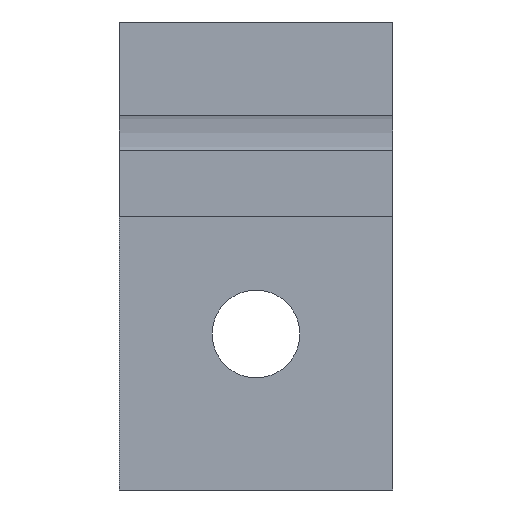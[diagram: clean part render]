
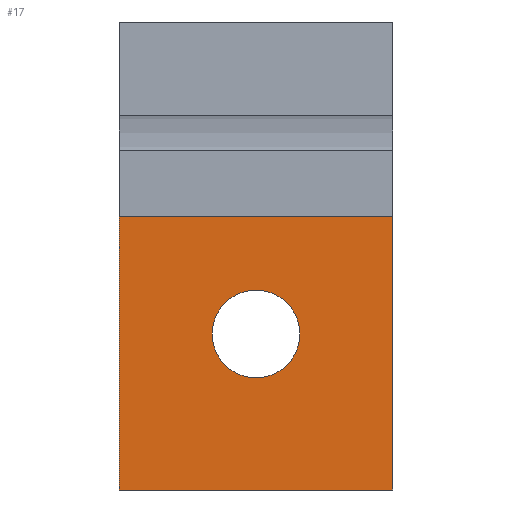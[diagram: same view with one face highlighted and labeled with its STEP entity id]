
A CAD part, left-side view. The second image highlights one B-rep face of the part: STEP entity #17.
In plain terms, the highlighted planar face has unit normal (-1, 0, 0).
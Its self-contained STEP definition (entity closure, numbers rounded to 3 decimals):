
#17 = ADVANCED_FACE('',(#18,#137),#32,.F.);
#18 = FACE_BOUND('',#19,.F.);
#19 = EDGE_LOOP('',(#20,#55,#83,#111));
#20 = ORIENTED_EDGE('',*,*,#21,.F.);
#21 = EDGE_CURVE('',#22,#24,#26,.T.);
#22 = VERTEX_POINT('',#23);
#23 = CARTESIAN_POINT('',(-45.,118.,-50.));
#24 = VERTEX_POINT('',#25);
#25 = CARTESIAN_POINT('',(-45.,118.,-36.));
#26 = SURFACE_CURVE('',#27,(#31,#43),.PCURVE_S1.);
#27 = LINE('',#28,#29);
#28 = CARTESIAN_POINT('',(-45.,118.,-50.));
#29 = VECTOR('',#30,1.);
#30 = DIRECTION('',(0.,0.,1.));
#31 = PCURVE('',#32,#37);
#32 = PLANE('',#33);
#33 = AXIS2_PLACEMENT_3D('',#34,#35,#36);
#34 = CARTESIAN_POINT('',(-45.,118.,-50.));
#35 = DIRECTION('',(1.,0.,0.));
#36 = DIRECTION('',(0.,0.,1.));
#37 = DEFINITIONAL_REPRESENTATION('',(#38),#42);
#38 = LINE('',#39,#40);
#39 = CARTESIAN_POINT('',(0.,0.));
#40 = VECTOR('',#41,1.);
#41 = DIRECTION('',(1.,0.));
#42 = ( GEOMETRIC_REPRESENTATION_CONTEXT(2) 
PARAMETRIC_REPRESENTATION_CONTEXT() REPRESENTATION_CONTEXT('2D SPACE',''
  ) );
#43 = PCURVE('',#44,#49);
#44 = PLANE('',#45);
#45 = AXIS2_PLACEMENT_3D('',#46,#47,#48);
#46 = CARTESIAN_POINT('',(-45.,118.,-50.));
#47 = DIRECTION('',(0.,1.,0.));
#48 = DIRECTION('',(0.,0.,1.));
#49 = DEFINITIONAL_REPRESENTATION('',(#50),#54);
#50 = LINE('',#51,#52);
#51 = CARTESIAN_POINT('',(0.,0.));
#52 = VECTOR('',#53,1.);
#53 = DIRECTION('',(1.,0.));
#54 = ( GEOMETRIC_REPRESENTATION_CONTEXT(2) 
PARAMETRIC_REPRESENTATION_CONTEXT() REPRESENTATION_CONTEXT('2D SPACE',''
  ) );
#55 = ORIENTED_EDGE('',*,*,#56,.T.);
#56 = EDGE_CURVE('',#22,#57,#59,.T.);
#57 = VERTEX_POINT('',#58);
#58 = CARTESIAN_POINT('',(-45.,132.,-50.));
#59 = SURFACE_CURVE('',#60,(#64,#71),.PCURVE_S1.);
#60 = LINE('',#61,#62);
#61 = CARTESIAN_POINT('',(-45.,118.,-50.));
#62 = VECTOR('',#63,1.);
#63 = DIRECTION('',(0.,1.,0.));
#64 = PCURVE('',#32,#65);
#65 = DEFINITIONAL_REPRESENTATION('',(#66),#70);
#66 = LINE('',#67,#68);
#67 = CARTESIAN_POINT('',(0.,0.));
#68 = VECTOR('',#69,1.);
#69 = DIRECTION('',(0.,-1.));
#70 = ( GEOMETRIC_REPRESENTATION_CONTEXT(2) 
PARAMETRIC_REPRESENTATION_CONTEXT() REPRESENTATION_CONTEXT('2D SPACE',''
  ) );
#71 = PCURVE('',#72,#77);
#72 = PLANE('',#73);
#73 = AXIS2_PLACEMENT_3D('',#74,#75,#76);
#74 = CARTESIAN_POINT('',(-45.,118.,-50.));
#75 = DIRECTION('',(0.,0.,1.));
#76 = DIRECTION('',(1.,0.,0.));
#77 = DEFINITIONAL_REPRESENTATION('',(#78),#82);
#78 = LINE('',#79,#80);
#79 = CARTESIAN_POINT('',(0.,0.));
#80 = VECTOR('',#81,1.);
#81 = DIRECTION('',(0.,1.));
#82 = ( GEOMETRIC_REPRESENTATION_CONTEXT(2) 
PARAMETRIC_REPRESENTATION_CONTEXT() REPRESENTATION_CONTEXT('2D SPACE',''
  ) );
#83 = ORIENTED_EDGE('',*,*,#84,.T.);
#84 = EDGE_CURVE('',#57,#85,#87,.T.);
#85 = VERTEX_POINT('',#86);
#86 = CARTESIAN_POINT('',(-45.,132.,-36.));
#87 = SURFACE_CURVE('',#88,(#92,#99),.PCURVE_S1.);
#88 = LINE('',#89,#90);
#89 = CARTESIAN_POINT('',(-45.,132.,-50.));
#90 = VECTOR('',#91,1.);
#91 = DIRECTION('',(0.,0.,1.));
#92 = PCURVE('',#32,#93);
#93 = DEFINITIONAL_REPRESENTATION('',(#94),#98);
#94 = LINE('',#95,#96);
#95 = CARTESIAN_POINT('',(0.,-14.));
#96 = VECTOR('',#97,1.);
#97 = DIRECTION('',(1.,0.));
#98 = ( GEOMETRIC_REPRESENTATION_CONTEXT(2) 
PARAMETRIC_REPRESENTATION_CONTEXT() REPRESENTATION_CONTEXT('2D SPACE',''
  ) );
#99 = PCURVE('',#100,#105);
#100 = PLANE('',#101);
#101 = AXIS2_PLACEMENT_3D('',#102,#103,#104);
#102 = CARTESIAN_POINT('',(-45.,132.,-50.));
#103 = DIRECTION('',(0.,1.,0.));
#104 = DIRECTION('',(0.,0.,1.));
#105 = DEFINITIONAL_REPRESENTATION('',(#106),#110);
#106 = LINE('',#107,#108);
#107 = CARTESIAN_POINT('',(0.,0.));
#108 = VECTOR('',#109,1.);
#109 = DIRECTION('',(1.,0.));
#110 = ( GEOMETRIC_REPRESENTATION_CONTEXT(2) 
PARAMETRIC_REPRESENTATION_CONTEXT() REPRESENTATION_CONTEXT('2D SPACE',''
  ) );
#111 = ORIENTED_EDGE('',*,*,#112,.F.);
#112 = EDGE_CURVE('',#24,#85,#113,.T.);
#113 = SURFACE_CURVE('',#114,(#118,#125),.PCURVE_S1.);
#114 = LINE('',#115,#116);
#115 = CARTESIAN_POINT('',(-45.,118.,-36.));
#116 = VECTOR('',#117,1.);
#117 = DIRECTION('',(0.,1.,0.));
#118 = PCURVE('',#32,#119);
#119 = DEFINITIONAL_REPRESENTATION('',(#120),#124);
#120 = LINE('',#121,#122);
#121 = CARTESIAN_POINT('',(14.,0.));
#122 = VECTOR('',#123,1.);
#123 = DIRECTION('',(0.,-1.));
#124 = ( GEOMETRIC_REPRESENTATION_CONTEXT(2) 
PARAMETRIC_REPRESENTATION_CONTEXT() REPRESENTATION_CONTEXT('2D SPACE',''
  ) );
#125 = PCURVE('',#126,#131);
#126 = PLANE('',#127);
#127 = AXIS2_PLACEMENT_3D('',#128,#129,#130);
#128 = CARTESIAN_POINT('',(-45.,118.,-36.));
#129 = DIRECTION('',(0.,0.,1.));
#130 = DIRECTION('',(1.,0.,0.));
#131 = DEFINITIONAL_REPRESENTATION('',(#132),#136);
#132 = LINE('',#133,#134);
#133 = CARTESIAN_POINT('',(0.,0.));
#134 = VECTOR('',#135,1.);
#135 = DIRECTION('',(0.,1.));
#136 = ( GEOMETRIC_REPRESENTATION_CONTEXT(2) 
PARAMETRIC_REPRESENTATION_CONTEXT() REPRESENTATION_CONTEXT('2D SPACE',''
  ) );
#137 = FACE_BOUND('',#138,.F.);
#138 = EDGE_LOOP('',(#139));
#139 = ORIENTED_EDGE('',*,*,#140,.T.);
#140 = EDGE_CURVE('',#141,#141,#143,.T.);
#141 = VERTEX_POINT('',#142);
#142 = CARTESIAN_POINT('',(-45.,127.25,-42.));
#143 = SURFACE_CURVE('',#144,(#149,#160),.PCURVE_S1.);
#144 = CIRCLE('',#145,2.25);
#145 = AXIS2_PLACEMENT_3D('',#146,#147,#148);
#146 = CARTESIAN_POINT('',(-45.,125.,-42.));
#147 = DIRECTION('',(-1.,0.,0.));
#148 = DIRECTION('',(0.,1.,0.));
#149 = PCURVE('',#32,#150);
#150 = DEFINITIONAL_REPRESENTATION('',(#151),#159);
#151 = ( BOUNDED_CURVE() B_SPLINE_CURVE(2,(#152,#153,#154,#155,#156,#157
,#158),.UNSPECIFIED.,.T.,.F.) B_SPLINE_CURVE_WITH_KNOTS((1,2,2,2,2,1),(
    -2.094,0.,2.094,4.189,6.283,
8.378),.UNSPECIFIED.) CURVE() GEOMETRIC_REPRESENTATION_ITEM() 
RATIONAL_B_SPLINE_CURVE((1.,0.5,1.,0.5,1.,0.5,1.)) REPRESENTATION_ITEM(
  '') );
#152 = CARTESIAN_POINT('',(8.,-9.25));
#153 = CARTESIAN_POINT('',(4.103,-9.25));
#154 = CARTESIAN_POINT('',(6.051,-5.875));
#155 = CARTESIAN_POINT('',(8.,-2.5));
#156 = CARTESIAN_POINT('',(9.949,-5.875));
#157 = CARTESIAN_POINT('',(11.897,-9.25));
#158 = CARTESIAN_POINT('',(8.,-9.25));
#159 = ( GEOMETRIC_REPRESENTATION_CONTEXT(2) 
PARAMETRIC_REPRESENTATION_CONTEXT() REPRESENTATION_CONTEXT('2D SPACE',''
  ) );
#160 = PCURVE('',#161,#166);
#161 = CYLINDRICAL_SURFACE('',#162,2.25);
#162 = AXIS2_PLACEMENT_3D('',#163,#164,#165);
#163 = CARTESIAN_POINT('',(-46.,125.,-42.));
#164 = DIRECTION('',(-1.,-0.,-0.));
#165 = DIRECTION('',(0.,1.,0.));
#166 = DEFINITIONAL_REPRESENTATION('',(#167),#171);
#167 = LINE('',#168,#169);
#168 = CARTESIAN_POINT('',(-6.283,-1.));
#169 = VECTOR('',#170,1.);
#170 = DIRECTION('',(1.,-0.));
#171 = ( GEOMETRIC_REPRESENTATION_CONTEXT(2) 
PARAMETRIC_REPRESENTATION_CONTEXT() REPRESENTATION_CONTEXT('2D SPACE',''
  ) );
